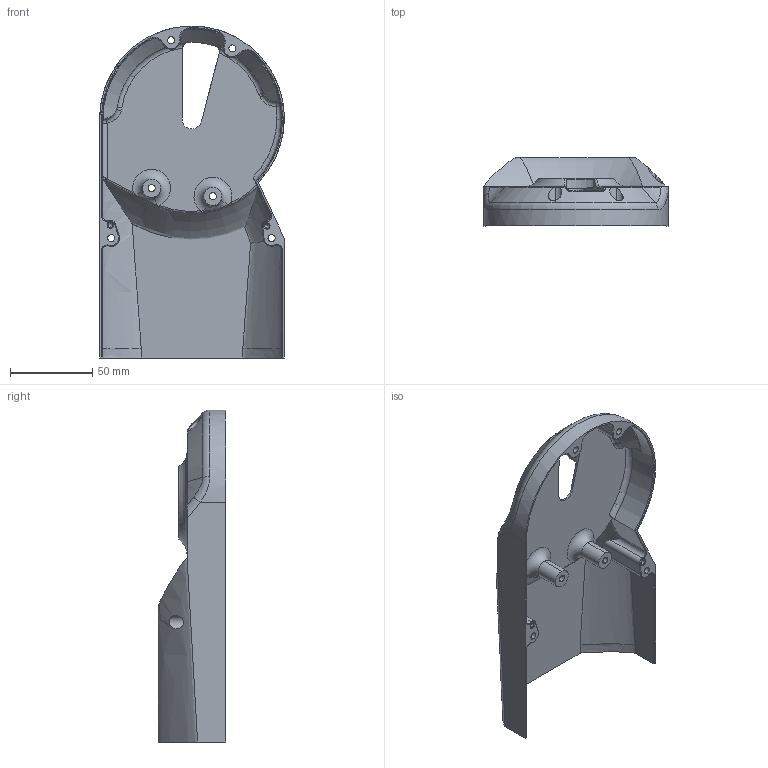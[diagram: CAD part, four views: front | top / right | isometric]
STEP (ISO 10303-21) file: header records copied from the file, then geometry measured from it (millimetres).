
FILE_DESCRIPTION((''),'2;1');
FILE_NAME('_60610001','2025-07-13T10:17:00',('Administrator'),(''),'CREO PARAMETRIC BY PTC INC, 2022073','CREO PARAMETRIC BY PTC INC, 2022073','');
FILE_SCHEMA(('CONFIG_CONTROL_DESIGN'));
Length unit declared in the file: millimetre
Products named in the file (1): _60610001
Bounding box: 112 x 41.25 x 201.5 mm (x, y, z)
Volume: 71451.9 mm3; surface area: 69418.8 mm2
Topology: 1 solids, 1 shells, 209 faces, 592 edges, 380 vertices
Faces by surface type: cylinder 69, cone 44, plane 38, bspline 27, torus 21, sphere 4, extrusion 4, revolution 2
Entity records: 9184 total; most frequent: CARTESIAN_POINT 3848, ORIENTED_EDGE 1168, DIRECTION 1082, EDGE_CURVE 584, AXIS2_PLACEMENT_3D 445, VERTEX_POINT 380, CIRCLE 269, EDGE_LOOP 226
